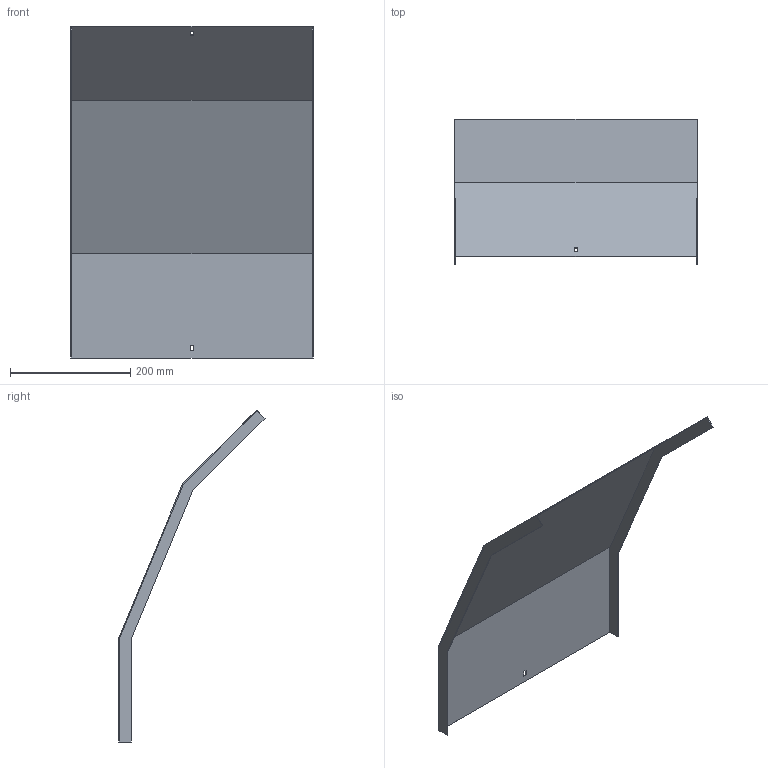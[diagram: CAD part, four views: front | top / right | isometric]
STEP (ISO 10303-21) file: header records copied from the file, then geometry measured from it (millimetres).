
FILE_DESCRIPTION (( 'STEP AP214' ), '1' );
FILE_NAME ('A2_34N3D400.step', '2025-02-21T10:34:52', ( '' ), ( '' ), 'SwSTEP 2.0', 'SolidWorks 2023', '' );
FILE_SCHEMA (( 'AUTOMOTIVE_DESIGN' ));
Length unit declared in the file: millimetre
Products named in the file (1): A2_34N3D400
Bounding box: 403 x 243.15 x 552.87 mm (x, y, z)
Volume: 411431.6 mm3; surface area: 551817.3 mm2
Topology: 1 solids, 1 shells, 26 faces, 72 edges, 48 vertices
Faces by surface type: plane 26
Entity records: 847 total; most frequent: CARTESIAN_POINT 147, ORIENTED_EDGE 144, DIRECTION 126, VECTOR 72, LINE 72, EDGE_CURVE 72, VERTEX_POINT 48, EDGE_LOOP 30
